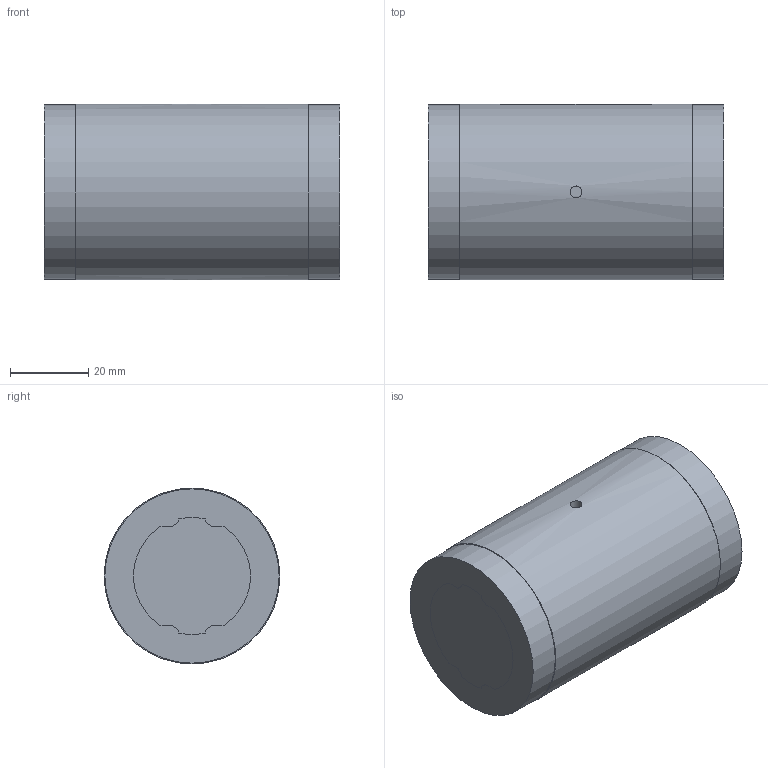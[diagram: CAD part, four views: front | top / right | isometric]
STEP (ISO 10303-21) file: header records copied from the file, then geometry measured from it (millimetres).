
FILE_DESCRIPTION(/* description */ ('STEP AP203'),/* implementation_level */ '2;1');
FILE_NAME(/* name */ 'LT30X+75.6L(00)',/* time_stamp */ '2024-05-28T07:08:13+02:00',/* author */ ('License CC BY-ND 4.0'),/* organization */ ('CADENAS'),/* preprocessor_version */ 'ST-DEVELOPER v19.3',/* originating_system */ 'PARTsolutions',/* authorisation */ ' ');
FILE_SCHEMA (('CONFIG_CONTROL_DESIGN'));
Length unit declared in the file: millimetre
Products named in the file (3): LT30X+75.6L(00); 1LT30X 75.6Shaft; 1LT30X Cylindar
Assembly tree (2 placements, depth 2):
  LT30X+75.6L(00)
    1LT30X 75.6Shaft
    1LT30X Cylindar
Bounding box: 75.6 x 45 x 45 mm (x, y, z)
Volume: 119273.6 mm3; surface area: 28818.7 mm2
Topology: 2 solids, 2 shells, 64 faces, 173 edges, 115 vertices
Faces by surface type: cylinder 39, plane 25
Full cylindrical faces by diameter (mm): 3 x2, 44.6 x2, 45 x1
Entity records: 2129 total; most frequent: CARTESIAN_POINT 399, DIRECTION 366, ORIENTED_EDGE 332, EDGE_CURVE 166, AXIS2_PLACEMENT_3D 139, VERTEX_POINT 114, LINE 88, VECTOR 88
